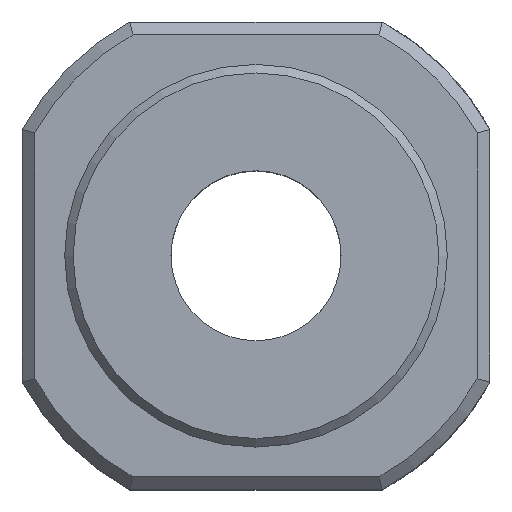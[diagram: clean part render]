
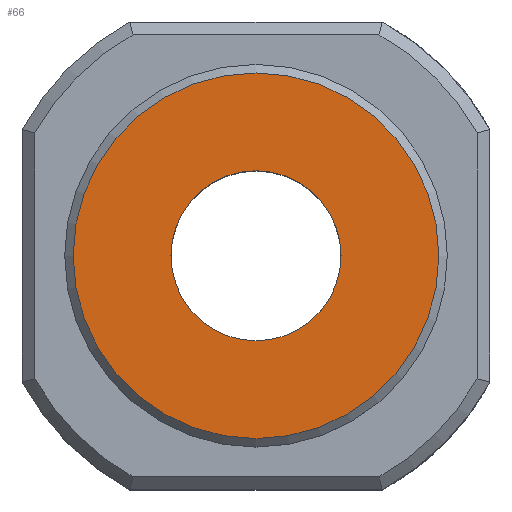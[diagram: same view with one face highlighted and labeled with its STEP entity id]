
A CAD part, top view. The second image highlights one B-rep face of the part: STEP entity #66.
In plain terms, the highlighted planar face has unit normal (0, 0, 1).
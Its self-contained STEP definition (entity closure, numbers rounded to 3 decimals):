
#66=ADVANCED_FACE('',(#155,#156),#157,.T.);
#155=FACE_OUTER_BOUND('',#278,.T.);
#156=FACE_BOUND('',#279,.T.);
#157=PLANE('',#280);
#278=EDGE_LOOP('',(#485));
#279=EDGE_LOOP('',(#486));
#280=AXIS2_PLACEMENT_3D('',#487,#488,#489);
#485=ORIENTED_EDGE('',*,*,#736,.T.);
#486=ORIENTED_EDGE('',*,*,#737,.T.);
#487=CARTESIAN_POINT('',(22.177,-7.456,12.018));
#488=DIRECTION('',(0.0,0.0,1.0));
#489=DIRECTION('',(1.0,0.0,0.0));
#736=EDGE_CURVE('',#851,#851,#852,.T.);
#737=EDGE_CURVE('',#853,#853,#854,.T.);
#851=VERTEX_POINT('',#1022);
#852=CIRCLE('',#1023,4.3);
#853=VERTEX_POINT('',#1024);
#854=CIRCLE('',#1025,2.0);
#1022=CARTESIAN_POINT('',(26.477,-7.456,12.018));
#1023=AXIS2_PLACEMENT_3D('',#1373,#1374,#1375);
#1024=CARTESIAN_POINT('',(20.177,-7.456,12.018));
#1025=AXIS2_PLACEMENT_3D('',#1376,#1377,#1378);
#1373=CARTESIAN_POINT('',(22.177,-7.456,12.018));
#1374=DIRECTION('',(0.0,0.0,1.0));
#1375=DIRECTION('',(1.0,0.0,0.0));
#1376=CARTESIAN_POINT('',(22.177,-7.456,12.018));
#1377=DIRECTION('',(0.0,0.0,-1.0));
#1378=DIRECTION('',(-1.0,0.0,0.0));
